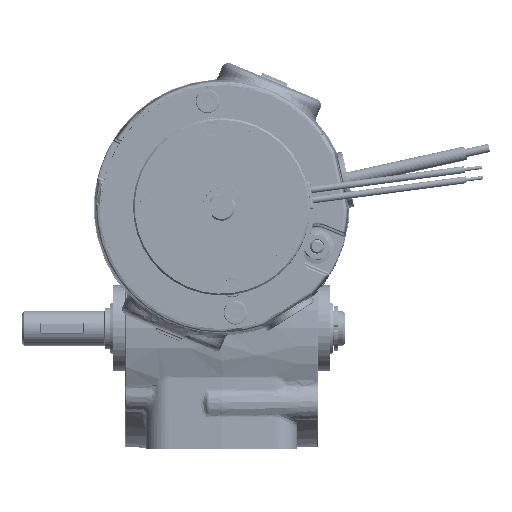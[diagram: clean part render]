
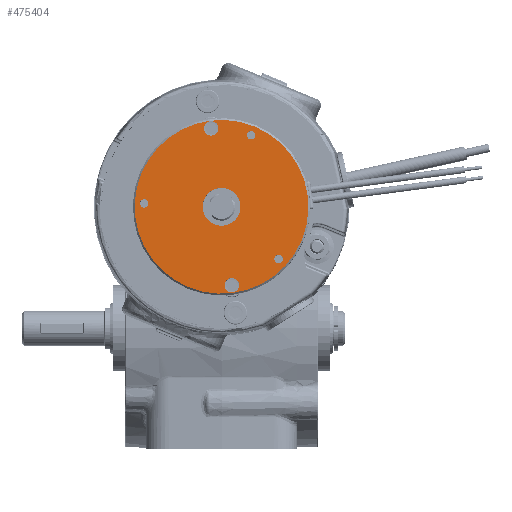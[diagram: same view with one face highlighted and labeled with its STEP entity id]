
A CAD part, top view. The second image highlights one B-rep face of the part: STEP entity #475404.
In plain terms, the highlighted planar face has unit normal (0, 0, 1).
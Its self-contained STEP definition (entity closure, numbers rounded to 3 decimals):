
#5548 = CIRCLE ( 'NONE', #141085, 5.5 ) ;
#17271 = CIRCLE ( 'NONE', #287554, 2.1 ) ;
#18256 = VERTEX_POINT ( 'NONE', #201326 ) ;
#19418 = CARTESIAN_POINT ( 'NONE',  ( 8.266, -8.088, 231.098 ) ) ;
#22095 = EDGE_LOOP ( 'NONE', ( #384798, #286579 ) ) ;
#26534 = AXIS2_PLACEMENT_3D ( 'NONE', #402042, #541205, #550103 ) ;
#39483 = CARTESIAN_POINT ( 'NONE',  ( 5.264, 14.716, 231.098 ) ) ;
#40958 = AXIS2_PLACEMENT_3D ( 'NONE', #243894, #249847, #195620 ) ;
#43291 = EDGE_LOOP ( 'NONE', ( #107058, #286867 ) ) ;
#47766 = VERTEX_POINT ( 'NONE', #212454 ) ;
#49169 = DIRECTION ( 'NONE',  ( -0.383, -0.924, 0. ) ) ;
#49896 = CIRCLE ( 'NONE', #388054, 2.1 ) ;
#54153 = CARTESIAN_POINT ( 'NONE',  ( 8.266, -8.088, 231.098 ) ) ;
#55380 = DIRECTION ( 'NONE',  ( 0., 0., -1. ) ) ;
#56509 = ORIENTED_EDGE ( 'NONE', *, *, #455943, .T. ) ;
#62765 = CARTESIAN_POINT ( 'NONE',  ( 21.853, -0.485, 231.098 ) ) ;
#68454 = ORIENTED_EDGE ( 'NONE', *, *, #577752, .T. ) ;
#76498 = CARTESIAN_POINT ( 'NONE',  ( -4.398, -8.612, 231.098 ) ) ;
#90082 = DIRECTION ( 'NONE',  ( 0., 0., -1. ) ) ;
#94556 = CARTESIAN_POINT ( 'NONE',  ( 3.16, 9.634, 231.098 ) ) ;
#99561 = AXIS2_PLACEMENT_3D ( 'NONE', #233962, #55380, #415525 ) ;
#107058 = ORIENTED_EDGE ( 'NONE', *, *, #375371, .T. ) ;
#111184 = DIRECTION ( 'NONE',  ( -0.383, -0.924, 0. ) ) ;
#114676 = VERTEX_POINT ( 'NONE', #234169 ) ;
#131258 = AXIS2_PLACEMENT_3D ( 'NONE', #598284, #90082, #325851 ) ;
#137328 = CIRCLE ( 'NONE', #214691, 2.1 ) ;
#139094 = EDGE_CURVE ( 'NONE', #47766, #156436, #534448, .T. ) ;
#139950 = PLANE ( 'NONE',  #358213 ) ;
#141085 = AXIS2_PLACEMENT_3D ( 'NONE', #485005, #403043, #581584 ) ;
#145510 = CARTESIAN_POINT ( 'NONE',  ( -17.685, 14.561, 231.098 ) ) ;
#156436 = VERTEX_POINT ( 'NONE', #564171 ) ;
#158915 = VERTEX_POINT ( 'NONE', #145510 ) ;
#160177 = CIRCLE ( 'NONE', #131258, 1.23 ) ;
#160659 = CARTESIAN_POINT ( 'NONE',  ( 7.463, -10.028, 231.098 ) ) ;
#180741 = DIRECTION ( 'NONE',  ( 0., 0., -1. ) ) ;
#187597 = EDGE_CURVE ( 'NONE', #158915, #250448, #524267, .T. ) ;
#189776 = DIRECTION ( 'NONE',  ( -0.383, -0.924, 0. ) ) ;
#195620 = DIRECTION ( 'NONE',  ( -0.383, -0.924, 0. ) ) ;
#196076 = AXIS2_PLACEMENT_3D ( 'NONE', #322656, #265399, #507354 ) ;
#199886 = ORIENTED_EDGE ( 'NONE', *, *, #411496, .T. ) ;
#201326 = CARTESIAN_POINT ( 'NONE',  ( 13.404, 34.367, 231.098 ) ) ;
#204013 = DIRECTION ( 'NONE',  ( 0., 0., -1. ) ) ;
#208437 = AXIS2_PLACEMENT_3D ( 'NONE', #569728, #397147, #442555 ) ;
#210226 = CARTESIAN_POINT ( 'NONE',  ( 7.369, 19.797, 231.098 ) ) ;
#212454 = CARTESIAN_POINT ( 'NONE',  ( 1.459, 35.579, 231.098 ) ) ;
#214691 = AXIS2_PLACEMENT_3D ( 'NONE', #19418, #204013, #482325 ) ;
#216483 = VERTEX_POINT ( 'NONE', #160659 ) ;
#221928 = CARTESIAN_POINT ( 'NONE',  ( -16.744, 16.833, 231.098 ) ) ;
#224027 = DIRECTION ( 'NONE',  ( 0., 0., 1. ) ) ;
#225154 = AXIS2_PLACEMENT_3D ( 'NONE', #229069, #180741, #189776 ) ;
#229069 = CARTESIAN_POINT ( 'NONE',  ( 21.853, -0.485, 231.098 ) ) ;
#230691 = EDGE_CURVE ( 'NONE', #448319, #18256, #160177, .T. ) ;
#233549 = ORIENTED_EDGE ( 'NONE', *, *, #537250, .T. ) ;
#233962 = CARTESIAN_POINT ( 'NONE',  ( 2.262, 37.519, 231.098 ) ) ;
#234169 = CARTESIAN_POINT ( 'NONE',  ( 14.927, 38.044, 231.098 ) ) ;
#234902 = VERTEX_POINT ( 'NONE', #286265 ) ;
#243894 = CARTESIAN_POINT ( 'NONE',  ( 5.264, 14.716, 231.098 ) ) ;
#244808 = DIRECTION ( 'NONE',  ( -0.383, -0.924, 0. ) ) ;
#247943 = EDGE_CURVE ( 'NONE', #504995, #334754, #5548, .T. ) ;
#248855 = CIRCLE ( 'NONE', #26534, 1.23 ) ;
#249702 = EDGE_CURVE ( 'NONE', #114676, #425708, #371645, .T. ) ;
#249847 = DIRECTION ( 'NONE',  ( 0., 0., 1. ) ) ;
#250448 = VERTEX_POINT ( 'NONE', #221928 ) ;
#253987 = ORIENTED_EDGE ( 'NONE', *, *, #139094, .T. ) ;
#258396 = CARTESIAN_POINT ( 'NONE',  ( 2.262, 37.519, 231.098 ) ) ;
#265377 = AXIS2_PLACEMENT_3D ( 'NONE', #39483, #224027, #369073 ) ;
#265399 = DIRECTION ( 'NONE',  ( 0., 0., -1. ) ) ;
#273866 = EDGE_LOOP ( 'NONE', ( #56509, #589057 ) ) ;
#276000 = FACE_BOUND ( 'NONE', #566194, .T. ) ;
#278962 = DIRECTION ( 'NONE',  ( 0., 0., -1. ) ) ;
#286265 = CARTESIAN_POINT ( 'NONE',  ( 21.383, -1.621, 231.098 ) ) ;
#286579 = ORIENTED_EDGE ( 'NONE', *, *, #504573, .T. ) ;
#286867 = ORIENTED_EDGE ( 'NONE', *, *, #230691, .T. ) ;
#287554 = AXIS2_PLACEMENT_3D ( 'NONE', #54153, #565204, #338334 ) ;
#311679 = CIRCLE ( 'NONE', #40958, 25.25 ) ;
#313491 = CIRCLE ( 'NONE', #390855, 1.23 ) ;
#318837 = EDGE_CURVE ( 'NONE', #574288, #216483, #17271, .T. ) ;
#322656 = CARTESIAN_POINT ( 'NONE',  ( -17.214, 15.697, 231.098 ) ) ;
#325851 = DIRECTION ( 'NONE',  ( -0.383, -0.924, 0. ) ) ;
#327773 = ORIENTED_EDGE ( 'NONE', *, *, #499272, .T. ) ;
#331759 = CIRCLE ( 'NONE', #427208, 5.5 ) ;
#334754 = VERTEX_POINT ( 'NONE', #378677 ) ;
#335069 = DIRECTION ( 'NONE',  ( 0., 0., -1. ) ) ;
#337042 = CARTESIAN_POINT ( 'NONE',  ( 22.324, 0.651, 231.098 ) ) ;
#338334 = DIRECTION ( 'NONE',  ( -0.383, -0.924, 0. ) ) ;
#347453 = CARTESIAN_POINT ( 'NONE',  ( 9.07, -6.148, 231.098 ) ) ;
#348484 = ORIENTED_EDGE ( 'NONE', *, *, #187597, .T. ) ;
#349214 = EDGE_CURVE ( 'NONE', #234902, #366808, #409047, .T. ) ;
#358213 = AXIS2_PLACEMENT_3D ( 'NONE', #94556, #278962, #49169 ) ;
#366808 = VERTEX_POINT ( 'NONE', #337042 ) ;
#369073 = DIRECTION ( 'NONE',  ( -0.383, -0.924, 0. ) ) ;
#371645 = CIRCLE ( 'NONE', #265377, 25.25 ) ;
#375371 = EDGE_CURVE ( 'NONE', #18256, #448319, #248855, .T. ) ;
#378677 = CARTESIAN_POINT ( 'NONE',  ( 3.16, 9.634, 231.098 ) ) ;
#384798 = ORIENTED_EDGE ( 'NONE', *, *, #349214, .T. ) ;
#388054 = AXIS2_PLACEMENT_3D ( 'NONE', #258396, #491342, #582021 ) ;
#390855 = AXIS2_PLACEMENT_3D ( 'NONE', #62765, #335069, #111184 ) ;
#391870 = CIRCLE ( 'NONE', #208437, 1.229 ) ;
#397147 = DIRECTION ( 'NONE',  ( 0., 0., -1. ) ) ;
#402042 = CARTESIAN_POINT ( 'NONE',  ( 13.875, 35.503, 231.098 ) ) ;
#403043 = DIRECTION ( 'NONE',  ( 0., 0., -1. ) ) ;
#409047 = CIRCLE ( 'NONE', #225154, 1.23 ) ;
#411496 = EDGE_CURVE ( 'NONE', #156436, #47766, #49896, .T. ) ;
#415525 = DIRECTION ( 'NONE',  ( -0.383, -0.924, 0. ) ) ;
#424178 = FACE_BOUND ( 'NONE', #43291, .T. ) ;
#425708 = VERTEX_POINT ( 'NONE', #76498 ) ;
#427208 = AXIS2_PLACEMENT_3D ( 'NONE', #529097, #520203, #244808 ) ;
#442555 = DIRECTION ( 'NONE',  ( -0.383, -0.924, 0. ) ) ;
#448319 = VERTEX_POINT ( 'NONE', #534390 ) ;
#450707 = ORIENTED_EDGE ( 'NONE', *, *, #318837, .T. ) ;
#455943 = EDGE_CURVE ( 'NONE', #425708, #114676, #311679, .T. ) ;
#457604 = FACE_BOUND ( 'NONE', #572305, .T. ) ;
#460616 = FACE_BOUND ( 'NONE', #519518, .T. ) ;
#469570 = FACE_BOUND ( 'NONE', #582366, .T. ) ;
#475404 = ADVANCED_FACE ( 'NONE', ( #457604, #469570, #509083, #460616, #424178, #276000, #512073 ), #139950, .F. ) ;
#482325 = DIRECTION ( 'NONE',  ( -0.383, -0.924, 0. ) ) ;
#485005 = CARTESIAN_POINT ( 'NONE',  ( 5.264, 14.716, 231.098 ) ) ;
#491342 = DIRECTION ( 'NONE',  ( 0., 0., -1. ) ) ;
#499272 = EDGE_CURVE ( 'NONE', #250448, #158915, #391870, .T. ) ;
#504573 = EDGE_CURVE ( 'NONE', #366808, #234902, #313491, .T. ) ;
#504995 = VERTEX_POINT ( 'NONE', #210226 ) ;
#507354 = DIRECTION ( 'NONE',  ( -0.383, -0.924, 0. ) ) ;
#509083 = FACE_BOUND ( 'NONE', #22095, .T. ) ;
#512073 = FACE_OUTER_BOUND ( 'NONE', #273866, .T. ) ;
#519518 = EDGE_LOOP ( 'NONE', ( #348484, #327773 ) ) ;
#520203 = DIRECTION ( 'NONE',  ( 0., 0., -1. ) ) ;
#524267 = CIRCLE ( 'NONE', #196076, 1.229 ) ;
#529097 = CARTESIAN_POINT ( 'NONE',  ( 5.264, 14.716, 231.098 ) ) ;
#534390 = CARTESIAN_POINT ( 'NONE',  ( 14.345, 36.639, 231.098 ) ) ;
#534448 = CIRCLE ( 'NONE', #99561, 2.1 ) ;
#537250 = EDGE_CURVE ( 'NONE', #216483, #574288, #137328, .T. ) ;
#541205 = DIRECTION ( 'NONE',  ( 0., 0., -1. ) ) ;
#550103 = DIRECTION ( 'NONE',  ( -0.383, -0.924, 0. ) ) ;
#551022 = ORIENTED_EDGE ( 'NONE', *, *, #247943, .T. ) ;
#564171 = CARTESIAN_POINT ( 'NONE',  ( 3.066, 39.459, 231.098 ) ) ;
#565204 = DIRECTION ( 'NONE',  ( 0., 0., -1. ) ) ;
#566194 = EDGE_LOOP ( 'NONE', ( #68454, #551022 ) ) ;
#569728 = CARTESIAN_POINT ( 'NONE',  ( -17.214, 15.697, 231.098 ) ) ;
#572305 = EDGE_LOOP ( 'NONE', ( #253987, #199886 ) ) ;
#574288 = VERTEX_POINT ( 'NONE', #347453 ) ;
#577752 = EDGE_CURVE ( 'NONE', #334754, #504995, #331759, .T. ) ;
#581584 = DIRECTION ( 'NONE',  ( -0.383, -0.924, 0. ) ) ;
#582021 = DIRECTION ( 'NONE',  ( -0.383, -0.924, 0. ) ) ;
#582366 = EDGE_LOOP ( 'NONE', ( #233549, #450707 ) ) ;
#589057 = ORIENTED_EDGE ( 'NONE', *, *, #249702, .T. ) ;
#598284 = CARTESIAN_POINT ( 'NONE',  ( 13.875, 35.503, 231.098 ) ) ;
